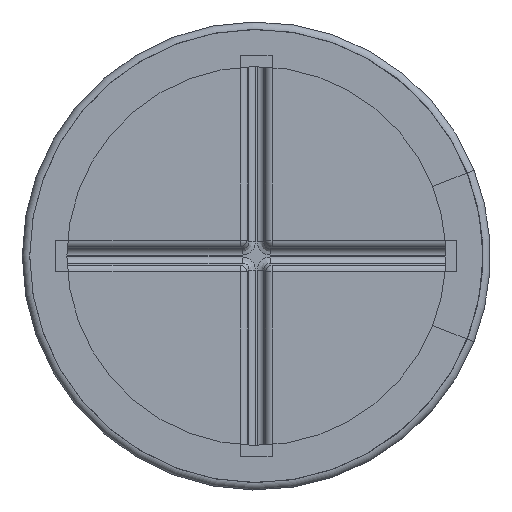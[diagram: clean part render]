
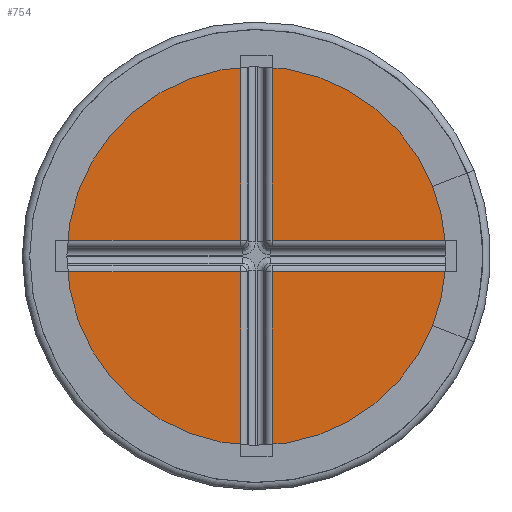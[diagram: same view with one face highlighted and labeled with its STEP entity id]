
A CAD part, front view. The second image highlights one B-rep face of the part: STEP entity #754.
In plain terms, the highlighted planar face has unit normal (0, -1, 0).
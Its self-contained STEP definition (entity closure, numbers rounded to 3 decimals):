
#127=FACE_BOUND('',#1039,.T.);
#128=FACE_BOUND('',#1040,.T.);
#684=PLANE('',#2625);
#754=ADVANCED_FACE('',(#127,#128),#684,.T.);
#1039=EDGE_LOOP('',(#1483));
#1040=EDGE_LOOP('',(#1484,#1485,#1486,#1487,#1488,#1489,#1490,#1491,#1492,
#1493,#1494,#1495));
#1171=LINE('',#3645,#1289);
#1172=LINE('',#3648,#1290);
#1173=LINE('',#3650,#1291);
#1174=LINE('',#3652,#1292);
#1175=LINE('',#3654,#1293);
#1176=LINE('',#3656,#1294);
#1177=LINE('',#3658,#1295);
#1178=LINE('',#3660,#1296);
#1179=LINE('',#3662,#1297);
#1180=LINE('',#3664,#1298);
#1181=LINE('',#3666,#1299);
#1182=LINE('',#3668,#1300);
#1289=VECTOR('',#2976,1.);
#1290=VECTOR('',#2977,1.);
#1291=VECTOR('',#2978,1.);
#1292=VECTOR('',#2979,1.);
#1293=VECTOR('',#2980,1.);
#1294=VECTOR('',#2981,1.);
#1295=VECTOR('',#2982,1.);
#1296=VECTOR('',#2983,1.);
#1297=VECTOR('',#2984,1.);
#1298=VECTOR('',#2985,1.);
#1299=VECTOR('',#2986,1.);
#1300=VECTOR('',#2987,1.);
#1483=ORIENTED_EDGE('',*,*,#2183,.F.);
#1484=ORIENTED_EDGE('',*,*,#2184,.T.);
#1485=ORIENTED_EDGE('',*,*,#2185,.T.);
#1486=ORIENTED_EDGE('',*,*,#2186,.T.);
#1487=ORIENTED_EDGE('',*,*,#2187,.T.);
#1488=ORIENTED_EDGE('',*,*,#2188,.T.);
#1489=ORIENTED_EDGE('',*,*,#2189,.T.);
#1490=ORIENTED_EDGE('',*,*,#2190,.F.);
#1491=ORIENTED_EDGE('',*,*,#2191,.T.);
#1492=ORIENTED_EDGE('',*,*,#2192,.T.);
#1493=ORIENTED_EDGE('',*,*,#2193,.F.);
#1494=ORIENTED_EDGE('',*,*,#2194,.T.);
#1495=ORIENTED_EDGE('',*,*,#2195,.T.);
#1987=VERTEX_POINT('',#3644);
#1988=VERTEX_POINT('',#3646);
#1989=VERTEX_POINT('',#3647);
#1990=VERTEX_POINT('',#3649);
#1991=VERTEX_POINT('',#3651);
#1992=VERTEX_POINT('',#3653);
#1993=VERTEX_POINT('',#3655);
#1994=VERTEX_POINT('',#3657);
#1995=VERTEX_POINT('',#3659);
#1996=VERTEX_POINT('',#3661);
#1997=VERTEX_POINT('',#3663);
#1998=VERTEX_POINT('',#3665);
#1999=VERTEX_POINT('',#3667);
#2183=EDGE_CURVE('',#1987,#1987,#2447,.T.);
#2184=EDGE_CURVE('',#1988,#1989,#1171,.T.);
#2185=EDGE_CURVE('',#1989,#1990,#1172,.T.);
#2186=EDGE_CURVE('',#1990,#1991,#1173,.T.);
#2187=EDGE_CURVE('',#1991,#1992,#1174,.T.);
#2188=EDGE_CURVE('',#1992,#1993,#1175,.T.);
#2189=EDGE_CURVE('',#1993,#1994,#1176,.T.);
#2190=EDGE_CURVE('',#1995,#1994,#1177,.T.);
#2191=EDGE_CURVE('',#1995,#1996,#1178,.T.);
#2192=EDGE_CURVE('',#1996,#1997,#1179,.T.);
#2193=EDGE_CURVE('',#1998,#1997,#1180,.T.);
#2194=EDGE_CURVE('',#1998,#1999,#1181,.T.);
#2195=EDGE_CURVE('',#1999,#1988,#1182,.T.);
#2447=CIRCLE('',#2624,3.05);
#2624=AXIS2_PLACEMENT_3D('',#3643,#2974,#2975);
#2625=AXIS2_PLACEMENT_3D('',#3669,#2988,#2989);
#2974=DIRECTION('',(0.,1.,0.));
#2975=DIRECTION('',(0.,0.,1.));
#2976=DIRECTION('',(1.,0.,0.));
#2977=DIRECTION('',(0.,0.,-1.));
#2978=DIRECTION('',(1.,0.,0.));
#2979=DIRECTION('',(0.,0.,-1.));
#2980=DIRECTION('',(-1.,0.,0.));
#2981=DIRECTION('',(0.,0.,-1.));
#2982=DIRECTION('',(1.,0.,0.));
#2983=DIRECTION('',(0.,0.,1.));
#2984=DIRECTION('',(-1.,0.,0.));
#2985=DIRECTION('',(0.,0.,-1.));
#2986=DIRECTION('',(1.,0.,0.));
#2987=DIRECTION('',(0.,0.,1.));
#2988=DIRECTION('',(0.,-1.,0.));
#2989=DIRECTION('',(0.,0.,-1.));
#3643=CARTESIAN_POINT('',(0.,0.1,0.));
#3644=CARTESIAN_POINT('',(0.,0.1,3.05));
#3645=CARTESIAN_POINT('',(-0.15,0.1,2.7));
#3646=CARTESIAN_POINT('',(-0.212,0.1,2.7));
#3647=CARTESIAN_POINT('',(0.212,0.1,2.7));
#3648=CARTESIAN_POINT('',(0.212,0.1,3.05));
#3649=CARTESIAN_POINT('',(0.212,0.1,0.212));
#3650=CARTESIAN_POINT('',(0.,0.1,0.212));
#3651=CARTESIAN_POINT('',(2.7,0.1,0.212));
#3652=CARTESIAN_POINT('',(2.7,0.1,0.15));
#3653=CARTESIAN_POINT('',(2.7,0.1,-0.212));
#3654=CARTESIAN_POINT('',(0.,0.1,-0.212));
#3655=CARTESIAN_POINT('',(0.212,0.1,-0.212));
#3656=CARTESIAN_POINT('',(0.212,0.1,3.05));
#3657=CARTESIAN_POINT('',(0.212,0.1,-2.7));
#3658=CARTESIAN_POINT('',(-0.15,0.1,-2.7));
#3659=CARTESIAN_POINT('',(-0.212,0.1,-2.7));
#3660=CARTESIAN_POINT('',(-0.212,0.1,3.05));
#3661=CARTESIAN_POINT('',(-0.212,0.1,-0.212));
#3662=CARTESIAN_POINT('',(0.,0.1,-0.212));
#3663=CARTESIAN_POINT('',(-2.7,0.1,-0.212));
#3664=CARTESIAN_POINT('',(-2.7,0.1,0.15));
#3665=CARTESIAN_POINT('',(-2.7,0.1,0.212));
#3666=CARTESIAN_POINT('',(0.,0.1,0.212));
#3667=CARTESIAN_POINT('',(-0.212,0.1,0.212));
#3668=CARTESIAN_POINT('',(-0.212,0.1,3.05));
#3669=CARTESIAN_POINT('',(0.,0.1,3.05));
